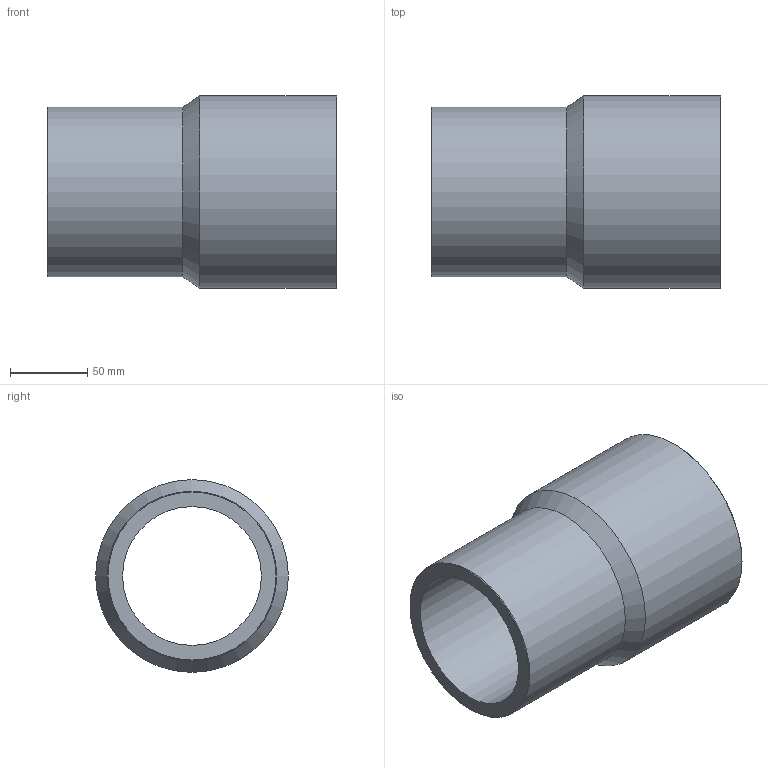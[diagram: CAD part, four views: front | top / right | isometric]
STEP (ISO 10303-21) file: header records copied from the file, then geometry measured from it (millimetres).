
FILE_DESCRIPTION(/* description */ ('Unknown'),/* implementation_level */ '2;1');
FILE_NAME(/* name */ 'RP125110C',/* time_stamp */ '2021-09-17T15:13:51+02:00',/* author */ ('Unknown'),/* organization */ ('Unknown'),/* preprocessor_version */ 'ST-DEVELOPER v16.7',/* originating_system */ 'Solid Edge',/* authorisation */ 'Unknown');
FILE_SCHEMA (('AUTOMOTIVE_DESIGN {1 0 10303 214 3 1 1}'));
Length unit declared in the file: millimetre
Products named in the file (1): RP125110C
Bounding box: 188 x 125 x 125 mm (x, y, z)
Volume: 689960.5 mm3; surface area: 134314.5 mm2
Topology: 1 solids, 1 shells, 10 faces, 19 edges, 11 vertices
Faces by surface type: cylinder 4, cone 4, plane 2
Full cylindrical faces by diameter (mm): 90 x1, 102.2 x1, 110 x1, 125 x1
Entity records: 238 total; most frequent: DIRECTION 42, CARTESIAN_POINT 31, AXIS2_PLACEMENT_3D 21, ORIENTED_EDGE 20, EDGE_LOOP 20, FACE_BOUND 20, EDGE_CURVE 10, VERTEX_POINT 10
